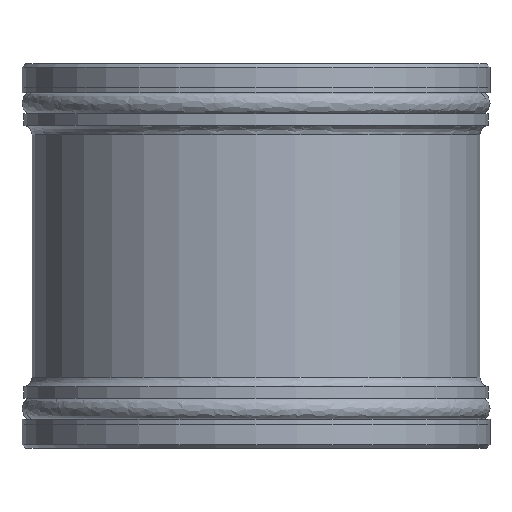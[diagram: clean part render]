
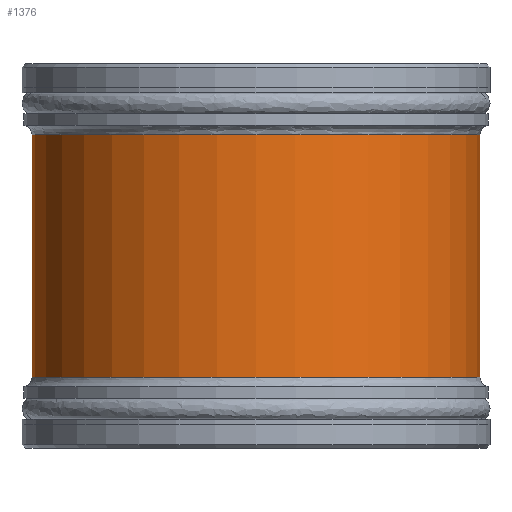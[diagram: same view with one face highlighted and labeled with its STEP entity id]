
A CAD part, front view. The second image highlights one B-rep face of the part: STEP entity #1376.
In plain terms, the highlighted cylindrical face has radius 67 mm (diameter 134 mm), a full revolution.
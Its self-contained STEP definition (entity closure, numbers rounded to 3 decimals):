
#1345=CARTESIAN_POINT('',(0.,67.0,86.728));
#1346=VERTEX_POINT('',#1345);
#1347=CARTESIAN_POINT('',(0.0,0.0,86.728));
#1348=DIRECTION('',(0.0,0.0,1.0));
#1349=DIRECTION('',(0.0,-1.0,0.0));
#1350=AXIS2_PLACEMENT_3D('',#1347,#1348,#1349);
#1351=CIRCLE('',#1350,67.0);
#1352=EDGE_CURVE('',#1346,#1346,#1351,.T.);
#1357=CARTESIAN_POINT('',(0.0,0.0,50.5));
#1358=DIRECTION('',(0.0,0.0,-1.0));
#1359=DIRECTION('',(0.0,-1.0,0.0));
#1360=AXIS2_PLACEMENT_3D('',#1357,#1358,#1359);
#1361=CYLINDRICAL_SURFACE('',#1360,67.0);
#1362=CARTESIAN_POINT('',(0.,67.0,14.272));
#1363=VERTEX_POINT('',#1362);
#1364=CARTESIAN_POINT('',(0.0,0.0,14.272));
#1365=DIRECTION('',(0.0,0.0,-1.0));
#1366=DIRECTION('',(0.0,-1.0,0.0));
#1367=AXIS2_PLACEMENT_3D('',#1364,#1365,#1366);
#1368=CIRCLE('',#1367,67.0);
#1369=EDGE_CURVE('',#1363,#1363,#1368,.T.);
#1370=ORIENTED_EDGE('',*,*,#1369,.F.);
#1371=EDGE_LOOP('',(#1370));
#1372=FACE_OUTER_BOUND('',#1371,.T.);
#1373=ORIENTED_EDGE('',*,*,#1352,.F.);
#1374=EDGE_LOOP('',(#1373));
#1375=FACE_BOUND('',#1374,.T.);
#1376=ADVANCED_FACE('',(#1372,#1375),#1361,.T.);
